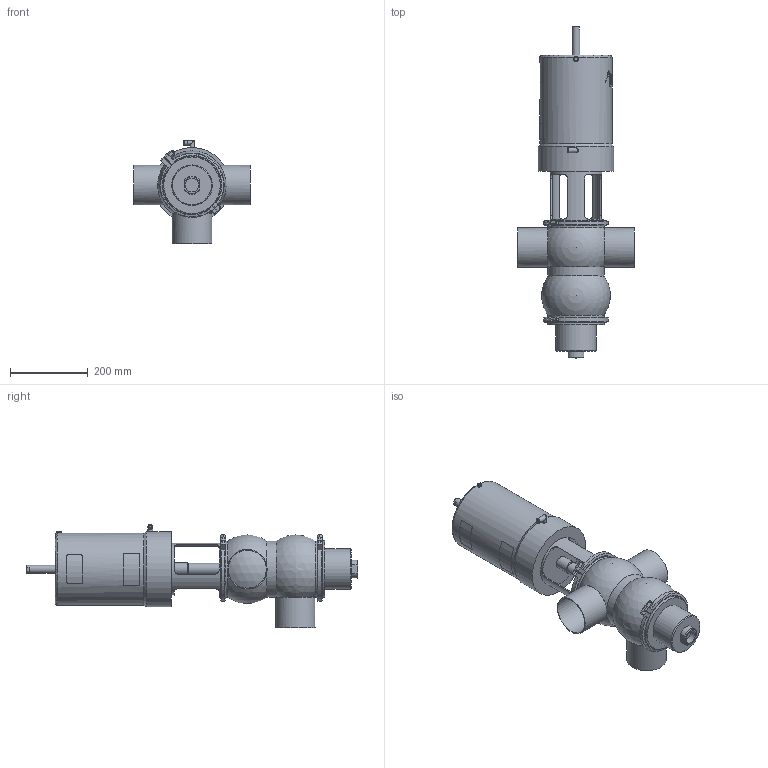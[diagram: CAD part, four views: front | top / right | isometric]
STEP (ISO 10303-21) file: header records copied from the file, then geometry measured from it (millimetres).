
FILE_DESCRIPTION (( 'STEP AP214' ), '1' );
FILE_NAME ('INNOVA S AB-90 W OD 4_10.251.16.0001.STEP', '2024-08-20T12:11:48', ( '' ), ( '' ), 'SwSTEP 2.0', 'SolidWorks 2023', '' );
FILE_SCHEMA (( 'AUTOMOTIVE_DESIGN' ));
Length unit declared in the file: millimetre
Products named in the file (6): 10.251.15.0003_OD 4"; INNOVA S AB-90 W OD 4_10.251.16.0001; 10.251.15.0001_OD 4"; 10.240.15.0001_DN 100; 10.250.15.0002_Type S T3; 10.251.15.0002_DN 4"
Assembly tree (6 placements, depth 2):
  INNOVA S AB-90 W OD 4_10.251.16.0001
    10.251.15.0001_OD 4"
    10.250.15.0002_Type S T3
    10.251.15.0003_OD 4"
    10.240.15.0001_DN 100  x2
    10.251.15.0002_DN 4"
Bounding box: 300 x 851.6 x 265 mm (x, y, z)
Volume: 14804175.4 mm3; surface area: 796240.5 mm2
Topology: 6 solids, 6 shells, 424 faces, 1113 edges, 724 vertices
Faces by surface type: plane 201, cylinder 109, bspline 80, cone 27, sphere 6, torus 1
Full cylindrical faces by diameter (mm): 4.2 x2, 5 x1, 6 x1, 6.15 x1, 8 x4, 8.5 x1, 10.5 x2, 12.5 x6, 20 x1, 30.5 x1, 32 x1, 35 x1, 97.4 x3, 101.6 x3, 104 x1, 133 x1, 133.1 x1, 144.5 x3, 145 x1, 156.5 x3, 157 x1, 185 x1, 193 x1
Entity records: 22297 total; most frequent: CARTESIAN_POINT 12129, ORIENTED_EDGE 1736, DIRECTION 1355, EDGE_CURVE 868, VERTEX_POINT 594, AXIS2_PLACEMENT_3D 522, EDGE_LOOP 454, FACE_OUTER_BOUND 406
